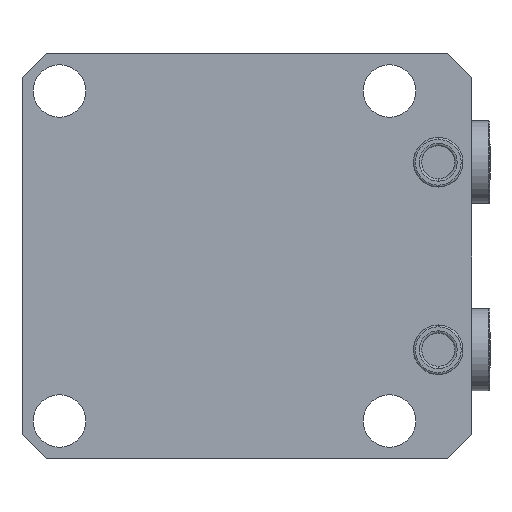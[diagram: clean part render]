
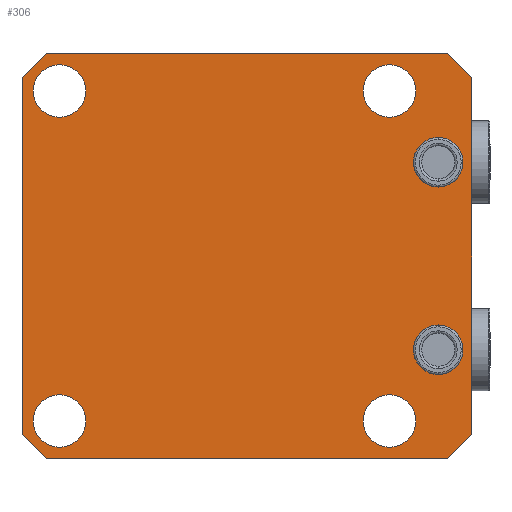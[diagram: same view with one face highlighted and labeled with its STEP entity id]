
A CAD part, front view. The second image highlights one B-rep face of the part: STEP entity #306.
In plain terms, the highlighted planar face has unit normal (0, -1, 0).
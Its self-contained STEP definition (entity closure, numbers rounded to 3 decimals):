
#176=PLANE('',#2241);
#226=FACE_BOUND('',#587,.T.);
#227=FACE_BOUND('',#588,.T.);
#228=FACE_BOUND('',#589,.T.);
#229=FACE_BOUND('',#590,.T.);
#230=FACE_BOUND('',#591,.T.);
#231=FACE_BOUND('',#592,.T.);
#232=FACE_BOUND('',#593,.T.);
#306=ADVANCED_FACE('',(#226,#227,#228,#229,#230,#231,#232),#176,.F.);
#587=EDGE_LOOP('',(#945,#946,#947,#948,#949,#950,#951,#952));
#588=EDGE_LOOP('',(#953,#954));
#589=EDGE_LOOP('',(#955,#956));
#590=EDGE_LOOP('',(#957,#958));
#591=EDGE_LOOP('',(#959,#960));
#592=EDGE_LOOP('',(#961,#962));
#593=EDGE_LOOP('',(#963,#964));
#738=CIRCLE('',#2196,6.6);
#754=CIRCLE('',#2217,6.6);
#755=CIRCLE('',#2219,7.);
#757=CIRCLE('',#2222,7.);
#759=CIRCLE('',#2225,7.);
#761=CIRCLE('',#2228,7.);
#765=CIRCLE('',#2235,7.);
#766=CIRCLE('',#2236,7.);
#767=CIRCLE('',#2237,7.);
#768=CIRCLE('',#2238,7.);
#769=CIRCLE('',#2239,6.6);
#770=CIRCLE('',#2240,6.6);
#945=ORIENTED_EDGE('',*,*,#1706,.F.);
#946=ORIENTED_EDGE('',*,*,#1707,.T.);
#947=ORIENTED_EDGE('',*,*,#1708,.F.);
#948=ORIENTED_EDGE('',*,*,#1709,.T.);
#949=ORIENTED_EDGE('',*,*,#1629,.F.);
#950=ORIENTED_EDGE('',*,*,#1710,.T.);
#951=ORIENTED_EDGE('',*,*,#1711,.F.);
#952=ORIENTED_EDGE('',*,*,#1712,.T.);
#953=ORIENTED_EDGE('',*,*,#1686,.F.);
#954=ORIENTED_EDGE('',*,*,#1713,.F.);
#955=ORIENTED_EDGE('',*,*,#1682,.F.);
#956=ORIENTED_EDGE('',*,*,#1714,.F.);
#957=ORIENTED_EDGE('',*,*,#1678,.F.);
#958=ORIENTED_EDGE('',*,*,#1715,.F.);
#959=ORIENTED_EDGE('',*,*,#1674,.F.);
#960=ORIENTED_EDGE('',*,*,#1716,.F.);
#961=ORIENTED_EDGE('',*,*,#1717,.F.);
#962=ORIENTED_EDGE('',*,*,#1672,.F.);
#963=ORIENTED_EDGE('',*,*,#1652,.T.);
#964=ORIENTED_EDGE('',*,*,#1718,.T.);
#1439=VERTEX_POINT('',#3104);
#1440=VERTEX_POINT('',#3106);
#1457=VERTEX_POINT('',#3151);
#1458=VERTEX_POINT('',#3153);
#1471=VERTEX_POINT('',#3190);
#1472=VERTEX_POINT('',#3192);
#1473=VERTEX_POINT('',#3196);
#1474=VERTEX_POINT('',#3197);
#1477=VERTEX_POINT('',#3205);
#1478=VERTEX_POINT('',#3206);
#1481=VERTEX_POINT('',#3214);
#1482=VERTEX_POINT('',#3215);
#1485=VERTEX_POINT('',#3223);
#1486=VERTEX_POINT('',#3224);
#1505=VERTEX_POINT('',#3303);
#1506=VERTEX_POINT('',#3304);
#1507=VERTEX_POINT('',#3306);
#1508=VERTEX_POINT('',#3308);
#1509=VERTEX_POINT('',#3311);
#1510=VERTEX_POINT('',#3313);
#1629=EDGE_CURVE('',#1439,#1440,#1911,.T.);
#1652=EDGE_CURVE('',#1458,#1457,#738,.T.);
#1672=EDGE_CURVE('',#1471,#1472,#754,.T.);
#1674=EDGE_CURVE('',#1473,#1474,#755,.T.);
#1678=EDGE_CURVE('',#1477,#1478,#757,.T.);
#1682=EDGE_CURVE('',#1481,#1482,#759,.T.);
#1686=EDGE_CURVE('',#1485,#1486,#761,.T.);
#1706=EDGE_CURVE('',#1505,#1506,#1935,.T.);
#1707=EDGE_CURVE('',#1505,#1507,#1936,.T.);
#1708=EDGE_CURVE('',#1508,#1507,#1937,.T.);
#1709=EDGE_CURVE('',#1508,#1440,#1938,.T.);
#1710=EDGE_CURVE('',#1439,#1509,#1939,.T.);
#1711=EDGE_CURVE('',#1510,#1509,#1940,.T.);
#1712=EDGE_CURVE('',#1510,#1506,#1941,.T.);
#1713=EDGE_CURVE('',#1486,#1485,#765,.T.);
#1714=EDGE_CURVE('',#1482,#1481,#766,.T.);
#1715=EDGE_CURVE('',#1478,#1477,#767,.T.);
#1716=EDGE_CURVE('',#1474,#1473,#768,.T.);
#1717=EDGE_CURVE('',#1472,#1471,#769,.T.);
#1718=EDGE_CURVE('',#1457,#1458,#770,.T.);
#1911=LINE('',#3105,#2036);
#1935=LINE('',#3302,#2060);
#1936=LINE('',#3305,#2061);
#1937=LINE('',#3307,#2062);
#1938=LINE('',#3309,#2063);
#1939=LINE('',#3310,#2064);
#1940=LINE('',#3312,#2065);
#1941=LINE('',#3314,#2066);
#2036=VECTOR('',#2455,1.);
#2060=VECTOR('',#2601,1.);
#2061=VECTOR('',#2602,1.);
#2062=VECTOR('',#2603,1.);
#2063=VECTOR('',#2604,1.);
#2064=VECTOR('',#2605,1.);
#2065=VECTOR('',#2606,1.);
#2066=VECTOR('',#2607,1.);
#2196=AXIS2_PLACEMENT_3D('',#3152,#2506,#2507);
#2217=AXIS2_PLACEMENT_3D('',#3191,#2552,#2553);
#2219=AXIS2_PLACEMENT_3D('',#3195,#2557,#2558);
#2222=AXIS2_PLACEMENT_3D('',#3204,#2565,#2566);
#2225=AXIS2_PLACEMENT_3D('',#3213,#2573,#2574);
#2228=AXIS2_PLACEMENT_3D('',#3222,#2581,#2582);
#2235=AXIS2_PLACEMENT_3D('',#3315,#2608,#2609);
#2236=AXIS2_PLACEMENT_3D('',#3316,#2610,#2611);
#2237=AXIS2_PLACEMENT_3D('',#3317,#2612,#2613);
#2238=AXIS2_PLACEMENT_3D('',#3318,#2614,#2615);
#2239=AXIS2_PLACEMENT_3D('',#3319,#2616,#2617);
#2240=AXIS2_PLACEMENT_3D('',#3320,#2618,#2619);
#2241=AXIS2_PLACEMENT_3D('',#3321,#2620,#2621);
#2455=DIRECTION('',(0.,0.,-1.));
#2506=DIRECTION('',(0.,1.,0.));
#2507=DIRECTION('',(0.,0.,1.));
#2552=DIRECTION('',(0.,-1.,0.));
#2553=DIRECTION('',(0.,0.,-1.));
#2557=DIRECTION('',(0.,-1.,0.));
#2558=DIRECTION('',(0.,0.,1.));
#2565=DIRECTION('',(0.,-1.,0.));
#2566=DIRECTION('',(0.,0.,1.));
#2573=DIRECTION('',(0.,-1.,0.));
#2574=DIRECTION('',(0.,0.,1.));
#2581=DIRECTION('',(0.,-1.,0.));
#2582=DIRECTION('',(0.,0.,1.));
#2601=DIRECTION('',(0.,0.,1.));
#2602=DIRECTION('',(0.707,0.,-0.707));
#2603=DIRECTION('',(-1.,0.,0.));
#2604=DIRECTION('',(0.707,0.,0.707));
#2605=DIRECTION('',(-0.707,0.,0.707));
#2606=DIRECTION('',(1.,0.,0.));
#2607=DIRECTION('',(-0.707,0.,-0.707));
#2608=DIRECTION('',(0.,-1.,0.));
#2609=DIRECTION('',(0.,0.,1.));
#2610=DIRECTION('',(0.,-1.,0.));
#2611=DIRECTION('',(0.,0.,1.));
#2612=DIRECTION('',(0.,-1.,0.));
#2613=DIRECTION('',(0.,0.,1.));
#2614=DIRECTION('',(0.,-1.,0.));
#2615=DIRECTION('',(0.,0.,1.));
#2616=DIRECTION('',(0.,-1.,0.));
#2617=DIRECTION('',(0.,0.,-1.));
#2618=DIRECTION('',(0.,1.,0.));
#2619=DIRECTION('',(0.,0.,1.));
#2620=DIRECTION('',(0.,1.,0.));
#2621=DIRECTION('',(0.,0.,1.));
#3104=CARTESIAN_POINT('',(66.,0.,47.5));
#3105=CARTESIAN_POINT('',(66.,0.,-54.));
#3106=CARTESIAN_POINT('',(66.,0.,-47.5));
#3151=CARTESIAN_POINT('',(57.,0.,31.6));
#3152=CARTESIAN_POINT('',(57.,0.,25.));
#3153=CARTESIAN_POINT('',(57.,0.,18.4));
#3190=CARTESIAN_POINT('',(57.,0.,-18.4));
#3191=CARTESIAN_POINT('',(57.,0.,-25.));
#3192=CARTESIAN_POINT('',(57.,0.,-31.6));
#3195=CARTESIAN_POINT('',(-44.,0.,44.));
#3196=CARTESIAN_POINT('',(-44.,0.,51.));
#3197=CARTESIAN_POINT('',(-44.,0.,37.));
#3204=CARTESIAN_POINT('',(44.,0.,44.));
#3205=CARTESIAN_POINT('',(44.,0.,51.));
#3206=CARTESIAN_POINT('',(44.,0.,37.));
#3213=CARTESIAN_POINT('',(-44.,0.,-44.));
#3214=CARTESIAN_POINT('',(-44.,0.,-37.));
#3215=CARTESIAN_POINT('',(-44.,0.,-51.));
#3222=CARTESIAN_POINT('',(44.,0.,-44.));
#3223=CARTESIAN_POINT('',(44.,0.,-37.));
#3224=CARTESIAN_POINT('',(44.,0.,-51.));
#3302=CARTESIAN_POINT('',(-54.,0.,-54.));
#3303=CARTESIAN_POINT('',(-54.,0.,-47.5));
#3304=CARTESIAN_POINT('',(-54.,0.,47.5));
#3305=CARTESIAN_POINT('',(-54.,0.,-47.5));
#3306=CARTESIAN_POINT('',(-47.5,0.,-54.));
#3307=CARTESIAN_POINT('',(-54.,0.,-54.));
#3308=CARTESIAN_POINT('',(59.5,0.,-54.));
#3309=CARTESIAN_POINT('',(59.5,0.,-54.));
#3310=CARTESIAN_POINT('',(66.,0.,47.5));
#3311=CARTESIAN_POINT('',(59.5,0.,54.));
#3312=CARTESIAN_POINT('',(-54.,0.,54.));
#3313=CARTESIAN_POINT('',(-47.5,0.,54.));
#3314=CARTESIAN_POINT('',(-47.5,0.,54.));
#3315=CARTESIAN_POINT('',(44.,0.,-44.));
#3316=CARTESIAN_POINT('',(-44.,0.,-44.));
#3317=CARTESIAN_POINT('',(44.,0.,44.));
#3318=CARTESIAN_POINT('',(-44.,0.,44.));
#3319=CARTESIAN_POINT('',(57.,0.,-25.));
#3320=CARTESIAN_POINT('',(57.,0.,25.));
#3321=CARTESIAN_POINT('',(-54.,0.,54.));
